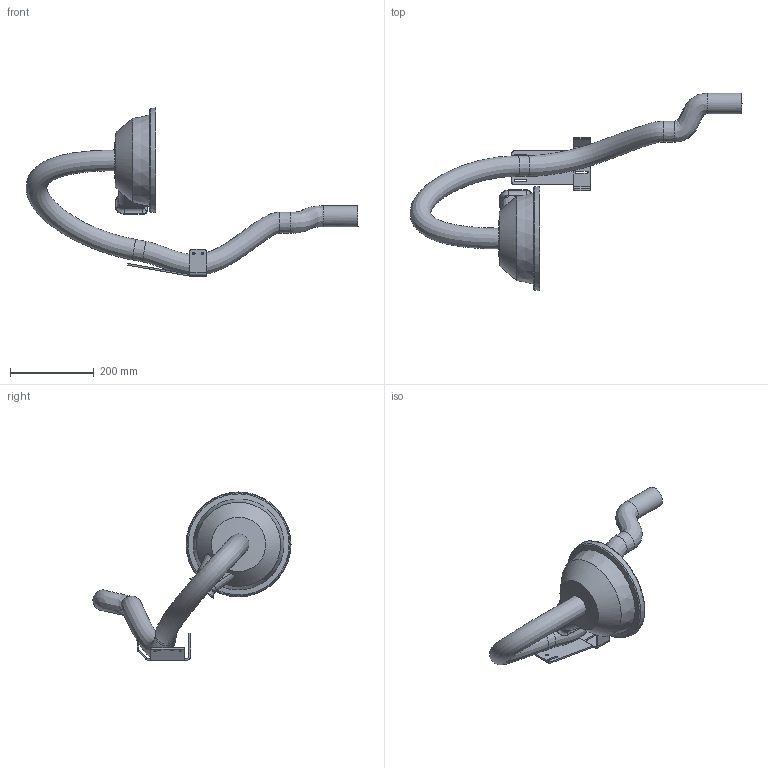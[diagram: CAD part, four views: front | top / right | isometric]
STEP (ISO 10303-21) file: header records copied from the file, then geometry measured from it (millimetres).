
FILE_DESCRIPTION (( 'STEP AP214' ), '1' );
FILE_NAME ('IRB77X0_All_OC_00_LINK03b_CABLE.step', '2026-01-28T10:15:45', ( '' ), ( '' ), 'SwSTEP 2.0', 'SolidWorks 2024', '' );
FILE_SCHEMA (( 'AUTOMOTIVE_DESIGN' ));
Length unit declared in the file: millimetre
Products named in the file (1): IRB77X0_All_OC_00_LINK03b_CABLE
Bounding box: 794.92 x 474.12 x 402.62 mm (x, y, z)
Volume: 5573103 mm3; surface area: 376026.9 mm2
Topology: 1 solids, 1 shells, 158 faces, 373 edges, 219 vertices
Faces by surface type: cylinder 54, plane 53, bspline 22, torus 15, cone 13, sphere 1
Full cylindrical faces by diameter (mm): 6 x2, 7 x2, 50 x1
Entity records: 24731 total; most frequent: CARTESIAN_POINT 20606, ORIENTED_EDGE 702, DIRECTION 671, EDGE_CURVE 351, AXIS2_PLACEMENT_3D 254, VERTEX_POINT 212, EDGE_LOOP 189, FACE_OUTER_BOUND 170
